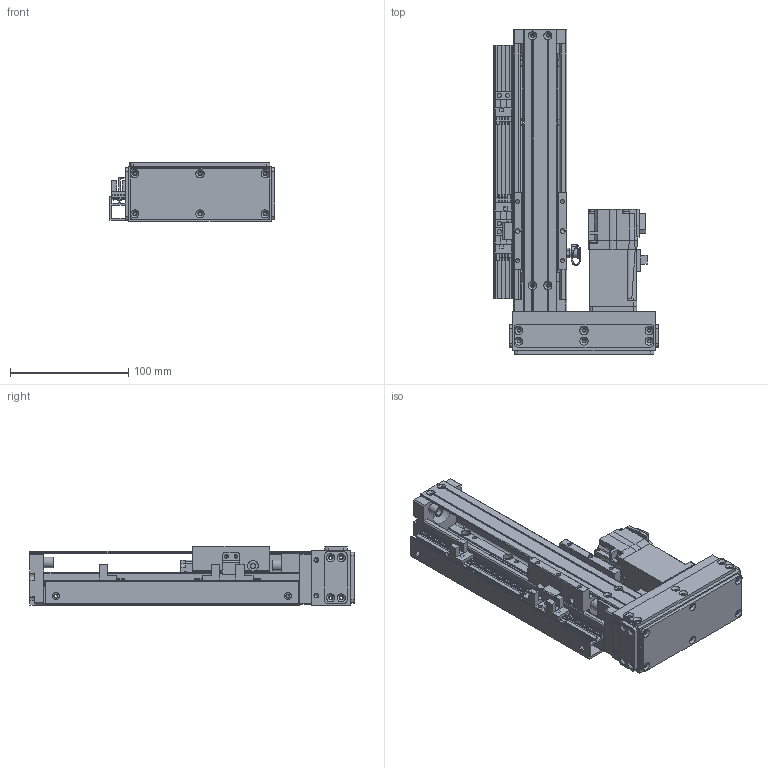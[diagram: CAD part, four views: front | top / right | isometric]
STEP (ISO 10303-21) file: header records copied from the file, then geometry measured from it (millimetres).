
FILE_DESCRIPTION(/* description */ ('MANUFACTURE'),/* implementation_level */ '2;1');
FILE_NAME(/* name */ '\\192.168.0.160\disk1\HAN SHIN Master\B-설계부문\C-표준\B-2024년\BC02-표준도면\+로봇 개선표준도면\표준 승인도 폴더 - 재작업\3D\HG45\병렬-R\HG45-R10-N-0100-L10.stp',/* time_stamp */ '2024-03-05T10:14:53+09:00',/* author */ ('User'),/* organization */ (''),/* preprocessor_version */ 'ST-DEVELOPER v18.1',/* originating_system */ 'Autodesk Inventor 2022',/* authorisation */ 'LIP');
FILE_SCHEMA (('AUTOMOTIVE_DESIGN { 1 0 10303 214 3 1 1 }'));
Products named in the file (21): HG45-L10-N-0500-R10 - 간소화; HR45 S BASE; HR45 REAR BLOCK; HR45 FRONT BLOCK; HR45 STOPPER; HR45 SENSOR RAIL; HC45 - TABLE (SFSR); HR45 UPCOVER-28mm; HR45 MOTOR PLATE 100W; hg-kr13_; 화살표; ESF1210 NUT; HR45 LR BELT COVER; HR45 ACRYL COVER(정면); HR45 ACRYL COVER(측면); HR45 ACRYL COVER(상하면); HC45 L,R MOTOR PLATE_MIR; HR45 SENSOR DOG; NIPPLE CAP(신규); hsr_ftht_A-M6F_grease_nipple_joint; EE_SX674A
Assembly tree (27 placements, depth 2):
  HG45-L10-N-0500-R10 - 간소화
    HR45 S BASE
    HR45 REAR BLOCK
    HR45 FRONT BLOCK
    HR45 STOPPER  x4
    HR45 SENSOR RAIL
    HC45 - TABLE (SFSR)
    HR45 UPCOVER-28mm
    HR45 MOTOR PLATE 100W
    hg-kr13_
    화살표  x2
    EE_SX674A  x3
    ESF1210 NUT
    HR45 LR BELT COVER
    HR45 ACRYL COVER(상하면)  x2
    HR45 ACRYL COVER(정면)
    HR45 ACRYL COVER(측면)
    HC45 L,R MOTOR PLATE_MIR
    HR45 SENSOR DOG
    NIPPLE CAP(신규)
    hsr_ftht_A-M6F_grease_nipple_joint
Bounding box: 139.5 x 274 x 50 mm (x, y, z)
Volume: 455995.6 mm3; surface area: 226943.2 mm2
Topology: 27 solids, 27 shells, 2300 faces, 6302 edges, 4144 vertices
Faces by surface type: plane 1652, cylinder 494, cone 127, bspline 13, sphere 8, torus 6
Full cylindrical faces by diameter (mm): 1 x1, 2.013 x6, 2.459 x74, 2.5 x4, 3 x11, 3.242 x18, 3.4 x36, 3.5 x21, 4 x13, 4.134 x1, 4.5 x12, 4.917 x2, 5.6 x3, 5.9 x2, 6 x20, 6.5 x6, 8 x7, 9 x4, 10 x1, 12 x1, 13 x1, 15 x1, 18 x1, 22 x2, 24 x1, 26 x1, 30 x2
Entity records: 71724 total; most frequent: CARTESIAN_POINT 13841, ORIENTED_EDGE 11724, DIRECTION 11124, EDGE_CURVE 5862, LINE 4650, VECTOR 4650, VERTEX_POINT 3897, AXIS2_PLACEMENT_3D 3237
